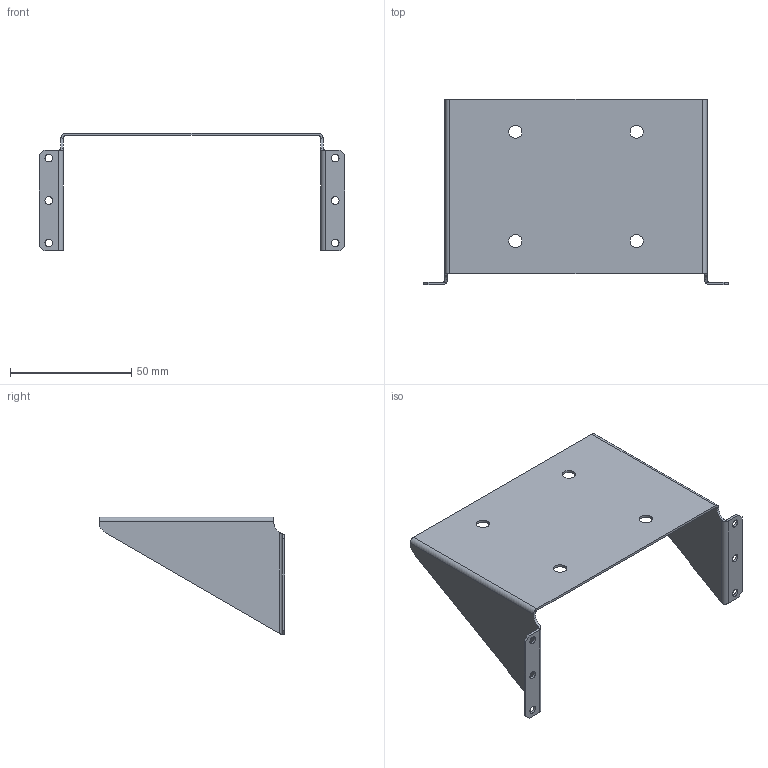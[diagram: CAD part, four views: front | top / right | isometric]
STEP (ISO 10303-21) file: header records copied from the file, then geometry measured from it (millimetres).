
FILE_DESCRIPTION (( 'STEP AP214' ), '1' );
FILE_NAME ('CAS2-00-080-BRACKET.STEP', '2021-11-08T02:24:09', ( '' ), ( '' ), 'SwSTEP 2.0', 'SolidWorks 2021', '' );
FILE_SCHEMA (( 'AUTOMOTIVE_DESIGN' ));
Length unit declared in the file: millimetre
Products named in the file (1): CAS2-00-080-BRACKET
Bounding box: 126 x 76.5 x 48.59 mm (x, y, z)
Volume: 12173.3 mm3; surface area: 25000.4 mm2
Topology: 1 solids, 1 shells, 58 faces, 160 edges, 104 vertices
Faces by surface type: cylinder 32, plane 26
Entity records: 1934 total; most frequent: CARTESIAN_POINT 347, DIRECTION 330, ORIENTED_EDGE 320, EDGE_CURVE 160, AXIS2_PLACEMENT_3D 119, VERTEX_POINT 104, VECTOR 92, LINE 92
